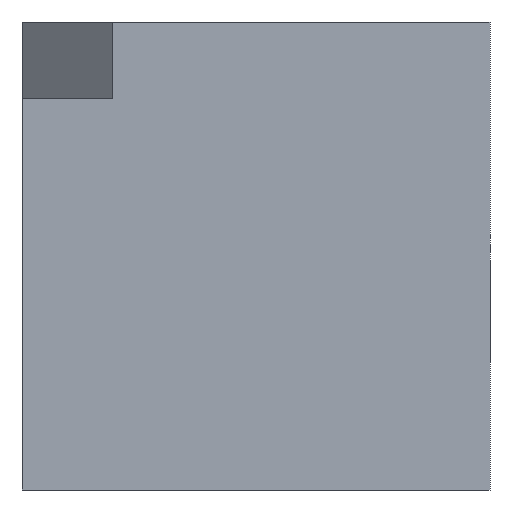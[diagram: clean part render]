
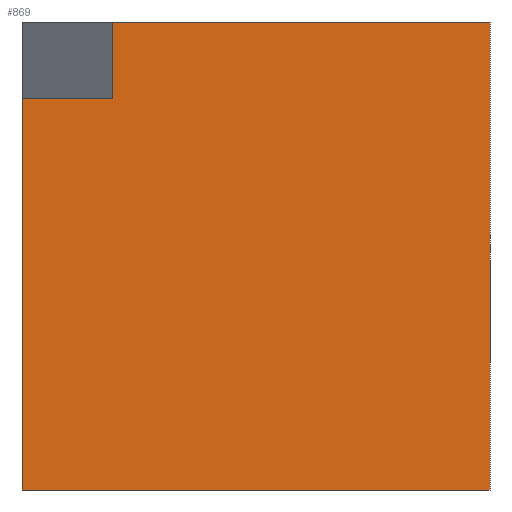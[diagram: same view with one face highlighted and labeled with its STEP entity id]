
A CAD part, front view. The second image highlights one B-rep face of the part: STEP entity #869.
In plain terms, the highlighted planar face has unit normal (0, -1, 0).
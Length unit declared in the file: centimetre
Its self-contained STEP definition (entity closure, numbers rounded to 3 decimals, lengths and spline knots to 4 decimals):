
#52 = LINE ( 'NONE', #201, #816 ) ;
#110 = ORIENTED_EDGE ( 'NONE', *, *, #397, .F. ) ;
#141 = VECTOR ( 'NONE', #831, 100. ) ;
#163 = VERTEX_POINT ( 'NONE', #576 ) ;
#176 = CARTESIAN_POINT ( 'NONE',  ( 0., 0., 1000. ) ) ;
#201 = CARTESIAN_POINT ( 'NONE',  ( 0., 0., 0. ) ) ;
#217 = VECTOR ( 'NONE', #581, 100. ) ;
#218 = LINE ( 'NONE', #287, #766 ) ;
#242 = LINE ( 'NONE', #176, #454 ) ;
#246 = AXIS2_PLACEMENT_3D ( 'NONE', #538, #547, #884 ) ;
#267 = PLANE ( 'NONE',  #246 ) ;
#287 = CARTESIAN_POINT ( 'NONE',  ( 1000., 0., 1000. ) ) ;
#313 = VERTEX_POINT ( 'NONE', #872 ) ;
#320 = DIRECTION ( 'NONE',  ( 0., 0., 1. ) ) ;
#340 = EDGE_CURVE ( 'NONE', #163, #870, #798, .T. ) ;
#345 = ORIENTED_EDGE ( 'NONE', *, *, #763, .T. ) ;
#348 = ORIENTED_EDGE ( 'NONE', *, *, #811, .T. ) ;
#361 = ORIENTED_EDGE ( 'NONE', *, *, #634, .F. ) ;
#375 = VECTOR ( 'NONE', #320, 100. ) ;
#387 = ORIENTED_EDGE ( 'NONE', *, *, #569, .F. ) ;
#397 = EDGE_CURVE ( 'NONE', #649, #163, #585, .T. ) ;
#435 = ORIENTED_EDGE ( 'NONE', *, *, #340, .F. ) ;
#441 = CARTESIAN_POINT ( 'NONE',  ( 194.1272, 0., 835.8012 ) ) ;
#454 = VECTOR ( 'NONE', #672, 100. ) ;
#462 = DIRECTION ( 'NONE',  ( 1., 0., 0. ) ) ;
#538 = CARTESIAN_POINT ( 'NONE',  ( 0., 0., 1000. ) ) ;
#547 = DIRECTION ( 'NONE',  ( 0., 1., 0. ) ) ;
#569 = EDGE_CURVE ( 'NONE', #692, #649, #695, .T. ) ;
#576 = CARTESIAN_POINT ( 'NONE',  ( 194.1272, 0., 1000. ) ) ;
#577 = VERTEX_POINT ( 'NONE', #764 ) ;
#581 = DIRECTION ( 'NONE',  ( 1., 0., 0. ) ) ;
#585 = LINE ( 'NONE', #441, #375 ) ;
#626 = CARTESIAN_POINT ( 'NONE',  ( 194.1272, 0., 835.8012 ) ) ;
#634 = EDGE_CURVE ( 'NONE', #870, #313, #218, .T. ) ;
#643 = CARTESIAN_POINT ( 'NONE',  ( 194.1272, 0., 835.8012 ) ) ;
#649 = VERTEX_POINT ( 'NONE', #643 ) ;
#672 = DIRECTION ( 'NONE',  ( 0., 0., -1. ) ) ;
#691 = EDGE_LOOP ( 'NONE', ( #435, #110, #387, #345, #348, #361 ) ) ;
#692 = VERTEX_POINT ( 'NONE', #725 ) ;
#695 = LINE ( 'NONE', #626, #141 ) ;
#725 = CARTESIAN_POINT ( 'NONE',  ( 0., 0., 835.8012 ) ) ;
#763 = EDGE_CURVE ( 'NONE', #692, #577, #242, .T. ) ;
#764 = CARTESIAN_POINT ( 'NONE',  ( 0., 0., 0. ) ) ;
#766 = VECTOR ( 'NONE', #846, 100. ) ;
#798 = LINE ( 'NONE', #802, #217 ) ;
#802 = CARTESIAN_POINT ( 'NONE',  ( 0., 0., 1000. ) ) ;
#811 = EDGE_CURVE ( 'NONE', #577, #313, #52, .T. ) ;
#816 = VECTOR ( 'NONE', #462, 100. ) ;
#823 = CARTESIAN_POINT ( 'NONE',  ( 1000., 0., 1000. ) ) ;
#831 = DIRECTION ( 'NONE',  ( 1., 0., 0. ) ) ;
#846 = DIRECTION ( 'NONE',  ( 0., 0., -1. ) ) ;
#869 = ADVANCED_FACE ( 'NONE', ( #890 ), #267, .F. ) ;
#870 = VERTEX_POINT ( 'NONE', #823 ) ;
#872 = CARTESIAN_POINT ( 'NONE',  ( 1000., 0., 0. ) ) ;
#884 = DIRECTION ( 'NONE',  ( 0., 0., 1. ) ) ;
#890 = FACE_OUTER_BOUND ( 'NONE', #691, .T. ) ;
